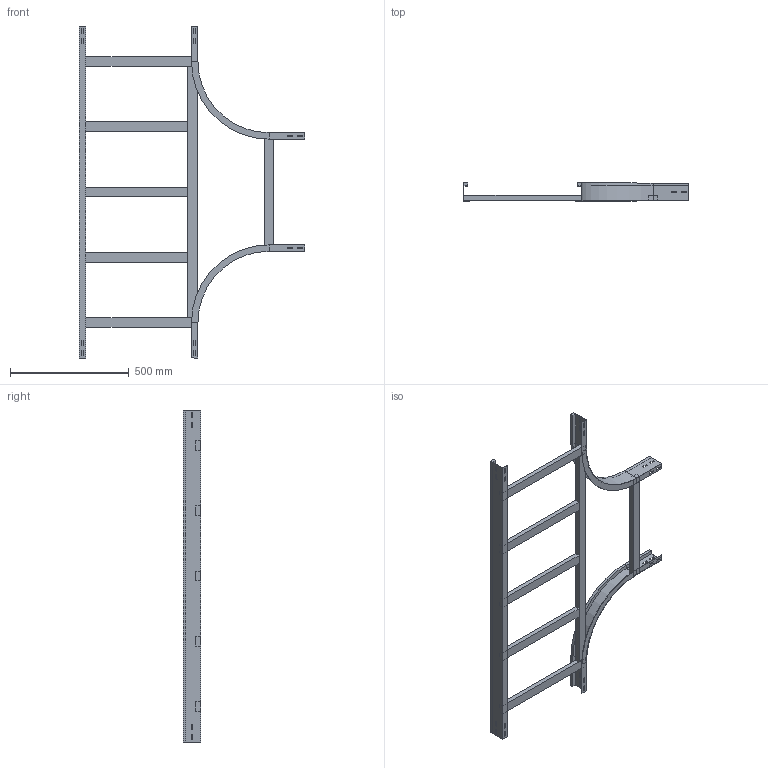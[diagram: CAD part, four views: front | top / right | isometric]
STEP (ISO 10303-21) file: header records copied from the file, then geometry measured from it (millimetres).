
FILE_DESCRIPTION (( 'STEP AP214' ), '1' );
FILE_NAME ('A2_15B3C500.step', '2025-02-21T15:53:15', ( '' ), ( '' ), 'SwSTEP 2.0', 'SolidWorks 2023', '' );
FILE_SCHEMA (( 'AUTOMOTIVE_DESIGN' ));
Length unit declared in the file: millimetre
Products named in the file (6): TRAVERSINO_INTERMEDIO_R300+500; TRAVERSINO_500; A2_LONGH.INTERNO 90°_H75_R300; A2_LONGH.RETT_H75_R300+500; A2_15B3C500; A2_TRAVERSINO_LONG._R300+500
Assembly tree (10 placements, depth 2):
  A2_15B3C500
    A2_LONGH.INTERNO 90°_H75_R300  x2
    A2_LONGH.RETT_H75_R300+500
    TRAVERSINO_500  x3
    A2_TRAVERSINO_LONG._R300+500
    TRAVERSINO_INTERMEDIO_R300+500  x3
Bounding box: 950 x 75 x 1400 mm (x, y, z)
Volume: 4325180 mm3; surface area: 1181629.8 mm2
Topology: 10 solids, 10 shells, 200 faces, 508 edges, 328 vertices
Faces by surface type: plane 192, cylinder 8
Entity records: 3823 total; most frequent: CARTESIAN_POINT 639, ORIENTED_EDGE 616, DIRECTION 578, EDGE_CURVE 308, LINE 300, VECTOR 300, VERTEX_POINT 200, EDGE_LOOP 150
